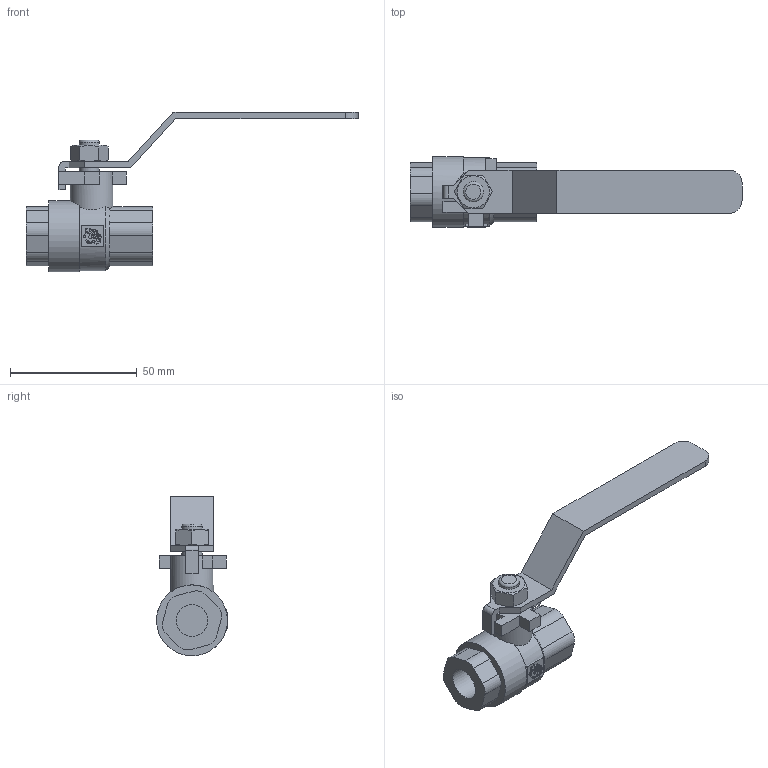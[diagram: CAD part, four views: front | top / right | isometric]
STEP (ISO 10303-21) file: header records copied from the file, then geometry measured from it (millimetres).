
FILE_DESCRIPTION(('STEP AP203'), '1');
FILE_NAME('7014-010-63_1', '', ('UNSPECIFIED'), ('UNSPECIFIED'), 'C3D Converter', 'C3D Toolkit', '');
FILE_SCHEMA(('CONFIG_CONTROL_DESIGN'));
Length unit declared in the file: millimetre
Bounding box: 131 x 27.99 x 62.95 mm (x, y, z)
Volume: 31741.2 mm3; surface area: 12870 mm2
Topology: 10 solids, 10 shells, 921 faces, 2682 edges, 1788 vertices
Faces by surface type: plane 895, cylinder 22, cone 3, torus 1
Full cylindrical faces by diameter (mm): 8 x2, 12.5 x2, 17 x1, 28 x1
Entity records: 38152 total; most frequent: CARTESIAN_POINT 6306, ORIENTED_EDGE 5346, DIRECTION 4556, EDGE_CURVE 2673, LINE 2592, VECTOR 2592, VERTEX_POINT 1788, AXIS2_PLACEMENT_3D 982
